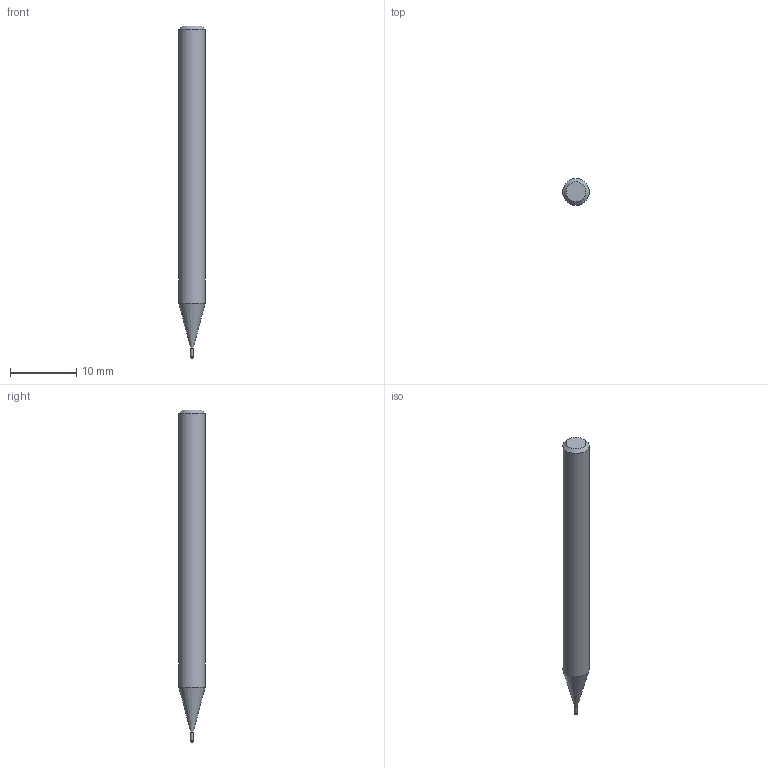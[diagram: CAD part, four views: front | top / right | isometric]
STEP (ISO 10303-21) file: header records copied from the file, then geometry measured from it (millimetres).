
FILE_DESCRIPTION((''),'2;1');
FILE_NAME('C:\Users\nsx150\AppData\Local\Temp\Mastercam 2021\LJSIDMOTM8\TEMP.step','2021-08-03T14:03:56',(''),(''),'STEP Write','Mastercam 2021 ... CNC Software, Inc.','');
FILE_SCHEMA(('AUTOMOTIVE_DESIGN'));
Length unit declared in the file: millimetre
Products named in the file (1): None
Bounding box: 4 x 4 x 50 mm (x, y, z)
Volume: 554.3 mm3; surface area: 583.1 mm2
Topology: 2 solids, 2 shells, 10 faces, 14 edges, 8 vertices
Faces by surface type: plane 4, cylinder 3, cone 2, torus 1
Full cylindrical faces by diameter (mm): 0.37 x1, 0.4 x1, 4 x1
Entity records: 232 total; most frequent: DIRECTION 40, CARTESIAN_POINT 28, AXIS2_PLACEMENT_3D 20, ORIENTED_EDGE 16, EDGE_LOOP 16, STYLED_ITEM 13, ADVANCED_FACE 10, FACE_BOUND 10
